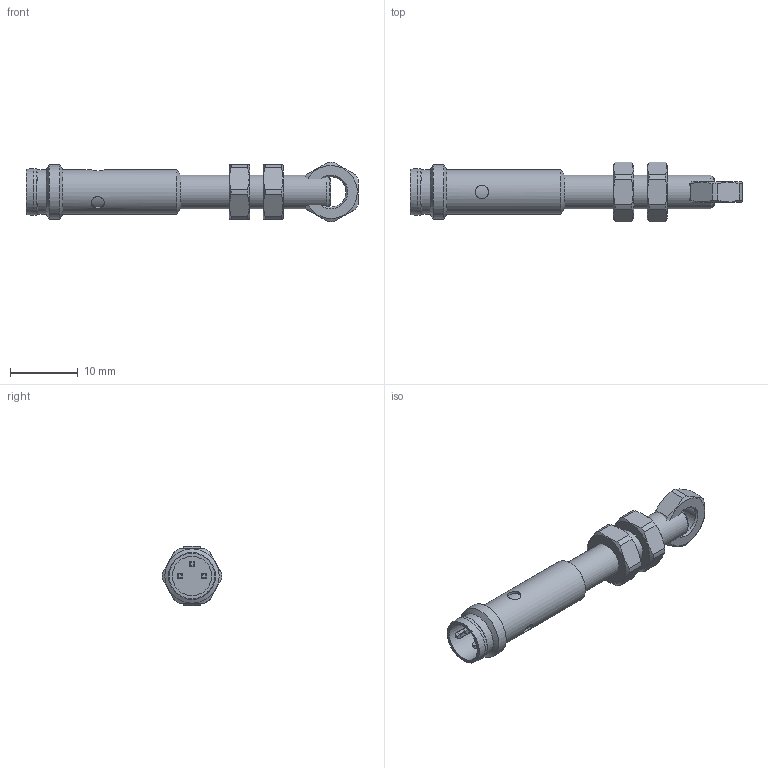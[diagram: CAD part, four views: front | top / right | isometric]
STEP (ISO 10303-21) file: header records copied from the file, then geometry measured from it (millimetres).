
FILE_DESCRIPTION( ( 'Unknown' ), '1' );
FILE_NAME( '//baumerholding.org/frauenfeld/bereich/BECH/Services/me_CAD/Solid Edge/Models/Dokumentationen/Induktiv/IxRx 05/Vereinfachte Modelle/Neutralformate/IFRM 05xxxA1_S35L.stp', 'Unknown', ( 'Unknown' ), ( 'Unknown' ), 'XStep 1.0', 'Unknown', ' ' );
FILE_SCHEMA( ( 'CONFIG_CONTROL_DESIGN' ) );
Length unit declared in the file: millimetre
Products named in the file (3): Assem1; IFRM 05xxxA1_S35L_oA; 101466
Bounding box: 48.98 x 8.8 x 8.8 mm (x, y, z)
Volume: 2542 mm3; surface area: 2653.3 mm2
Topology: 5 solids, 5 shells, 183 faces, 453 edges, 294 vertices
Faces by surface type: plane 86, cylinder 71, cone 24, torus 2
Full cylindrical faces by diameter (mm): 2 x6, 3.9 x2, 4.459 x3, 5 x2, 5.8 x2, 6.5 x4, 6.9 x2, 8 x2
Entity records: 2662 total; most frequent: CARTESIAN_POINT 674, DIRECTION 398, ORIENTED_EDGE 346, EDGE_CURVE 173, AXIS2_PLACEMENT_3D 157, VERTEX_POINT 125, EDGE_LOOP 114, FACE_OUTER_BOUND 94
